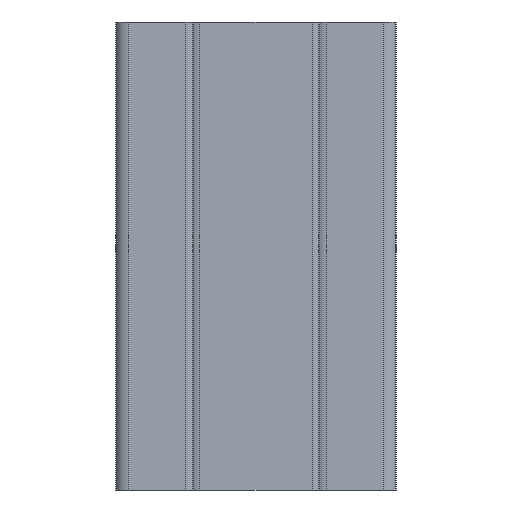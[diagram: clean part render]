
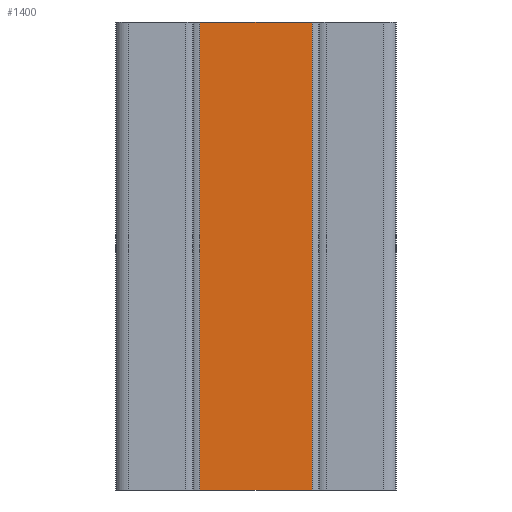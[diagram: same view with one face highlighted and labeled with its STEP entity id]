
A CAD part, left-side view. The second image highlights one B-rep face of the part: STEP entity #1400.
In plain terms, the highlighted planar face has unit normal (-1, 0, 0).
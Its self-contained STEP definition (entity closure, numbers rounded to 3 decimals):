
#48 = DIRECTION ( 'NONE',  ( 0., -1., 0. ) ) ;
#206 = DIRECTION ( 'NONE',  ( 0., 1., 0. ) ) ;
#211 = CARTESIAN_POINT ( 'NONE',  ( -17.5, 9.5, 100. ) ) ;
#221 = CARTESIAN_POINT ( 'NONE',  ( -17.5, -9.5, 0. ) ) ;
#224 = LINE ( 'NONE', #221, #611 ) ;
#366 = DIRECTION ( 'NONE',  ( 0., 0., -1. ) ) ;
#414 = VERTEX_POINT ( 'NONE', #1196 ) ;
#439 = EDGE_LOOP ( 'NONE', ( #593, #960, #1305, #1998 ) ) ;
#593 = ORIENTED_EDGE ( 'NONE', *, *, #1065, .T. ) ;
#609 = FACE_OUTER_BOUND ( 'NONE', #439, .T. ) ;
#611 = VECTOR ( 'NONE', #48, 1000. ) ;
#765 = EDGE_CURVE ( 'NONE', #1098, #1620, #1232, .T. ) ;
#786 = VERTEX_POINT ( 'NONE', #2068 ) ;
#960 = ORIENTED_EDGE ( 'NONE', *, *, #2094, .F. ) ;
#1065 = EDGE_CURVE ( 'NONE', #414, #786, #224, .T. ) ;
#1098 = VERTEX_POINT ( 'NONE', #1513 ) ;
#1104 = LINE ( 'NONE', #211, #1445 ) ;
#1142 = VECTOR ( 'NONE', #1896, 1000. ) ;
#1152 = AXIS2_PLACEMENT_3D ( 'NONE', #1199, #1670, #206 ) ;
#1184 = PLANE ( 'NONE',  #1152 ) ;
#1188 = DIRECTION ( 'NONE',  ( 0., 0., -1. ) ) ;
#1196 = CARTESIAN_POINT ( 'NONE',  ( -17.5, 9.5, 0. ) ) ;
#1199 = CARTESIAN_POINT ( 'NONE',  ( -17.5, -9.5, 100. ) ) ;
#1232 = LINE ( 'NONE', #1905, #1142 ) ;
#1305 = ORIENTED_EDGE ( 'NONE', *, *, #765, .F. ) ;
#1400 = ADVANCED_FACE ( 'NONE', ( #609 ), #1184, .F. ) ;
#1445 = VECTOR ( 'NONE', #366, 1000. ) ;
#1469 = CARTESIAN_POINT ( 'NONE',  ( -17.5, -14.5, 100. ) ) ;
#1513 = CARTESIAN_POINT ( 'NONE',  ( -17.5, 9.5, 100. ) ) ;
#1578 = VECTOR ( 'NONE', #1188, 1000. ) ;
#1620 = VERTEX_POINT ( 'NONE', #1913 ) ;
#1650 = LINE ( 'NONE', #1469, #1578 ) ;
#1670 = DIRECTION ( 'NONE',  ( 1., 0., 0. ) ) ;
#1896 = DIRECTION ( 'NONE',  ( 0., -1., 0. ) ) ;
#1905 = CARTESIAN_POINT ( 'NONE',  ( -17.5, -9.5, 100. ) ) ;
#1913 = CARTESIAN_POINT ( 'NONE',  ( -17.5, -14.5, 100. ) ) ;
#1951 = EDGE_CURVE ( 'NONE', #1098, #414, #1104, .T. ) ;
#1998 = ORIENTED_EDGE ( 'NONE', *, *, #1951, .T. ) ;
#2068 = CARTESIAN_POINT ( 'NONE',  ( -17.5, -14.5, 0. ) ) ;
#2094 = EDGE_CURVE ( 'NONE', #1620, #786, #1650, .T. ) ;
